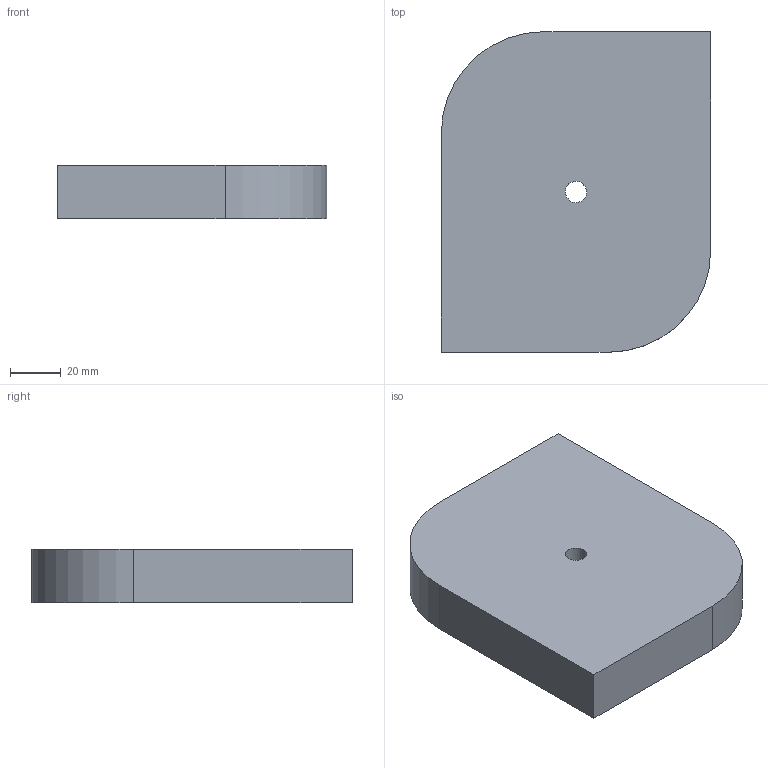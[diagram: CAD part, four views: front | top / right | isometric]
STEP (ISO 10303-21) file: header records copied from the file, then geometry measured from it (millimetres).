
FILE_DESCRIPTION(('CATIA V5 STEP Exchange'),'2;1');
FILE_NAME('C:\_Andres\UNIVERSIDAD\IQS\ASIGNATURAS\DAO\EXF\EXF-15161c\1original\Molins_Gutiérrez_Ej01-plano_v16.stp','2016-03-04T14:59:45+00:00',('none'),('none'),'CATIA Version 5 Release 20 SP 1 (IN-10)','CATIA V5 STEP AP203','none');
FILE_SCHEMA(('CONFIG_CONTROL_DESIGN'));
Length unit declared in the file: millimetre
Products named in the file (1): Molins_Gutiérrez_Ej01-plano_v16
Bounding box: 106 x 126 x 21 mm (x, y, z)
Volume: 264897.6 mm3; surface area: 34803.9 mm2
Topology: 1 solids, 1 shells, 10 faces, 24 edges, 16 vertices
Faces by surface type: plane 6, cylinder 4
Entity records: 333 total; most frequent: CARTESIAN_POINT 51, ORIENTED_EDGE 48, DIRECTION 44, EDGE_CURVE 24, AXIS2_PLACEMENT_3D 19, VECTOR 16, LINE 16, VERTEX_POINT 16
